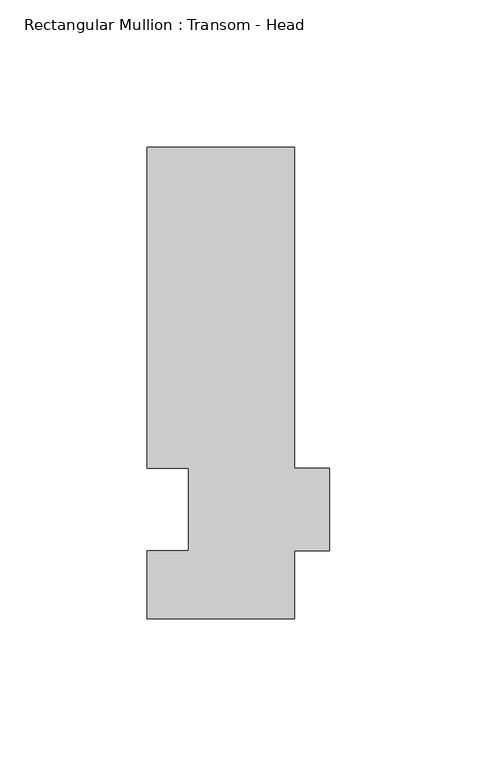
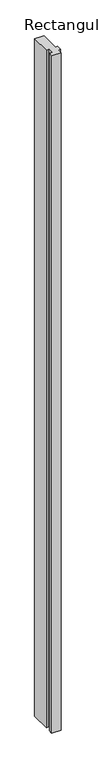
"""IFC4 building model written with IfcOpenShell, lengths in millimetres: member geometry, Rectangular Mullion : Transom - Head."""

from ifc_helpers import new_model, si_unit, frame, origin, place, context, project, spatial, polyline, outline, extrude, source, transform, mapped, element, save


def rectangular_mullion_transom_head_b300effe(model_context):
    return source(origin(), model_context, "Body", "SweptSolid", [
        extrude(outline(polyline([(-12.019079, -14.0), (-12.019079, -37.0307322), (-62.019079, -37.0307322), (-62.019079, -14.0), (-48.019079, -14.0), (-48.019079, 14.0), (-62.019079, 14.0), (-62.019079, 123.0), (-12.019079, 123.0), (-12.019079, 14.0), (0.0, 14.0), (0.0, -14.0), (-12.019079, -14.0)])), frame((0.0, 0.0, -3876.038158), z_axis=(0.0, 0.0, 1.0), x_axis=(1.0, 0.0, 0.0)), (0.0, 0.0, 1.0), 3876.038158),
    ])


if __name__ == "__main__":
    model = new_model("IFC4")
    model_context = context("Model", 3, world=origin())
    ifc_project = project(units=[si_unit("LENGTHUNIT", "METRE", prefix="MILLI")], contexts=[model_context])
    site = spatial("IfcSite", under=ifc_project)
    building = spatial("IfcBuilding", under=site)
    placement = place(None, origin())
    rectangular_mullion_transom_head_shape = rectangular_mullion_transom_head_b300effe(model_context)
    element("IfcMember", 1, ObjectType="Rectangular Mullion : Transom - Head", at=placement, inside=building, context=model_context, shape_type="MappedRepresentation", body=[
        mapped(rectangular_mullion_transom_head_shape, transform((0.0, 0.0, 0.0), x_axis=(1.0, 0.0, 0.0), y_axis=(0.0, 1.0, 0.0), z_axis=(0.0, 0.0, 1.0))),
    ])
    save(model, "model.ifc")
